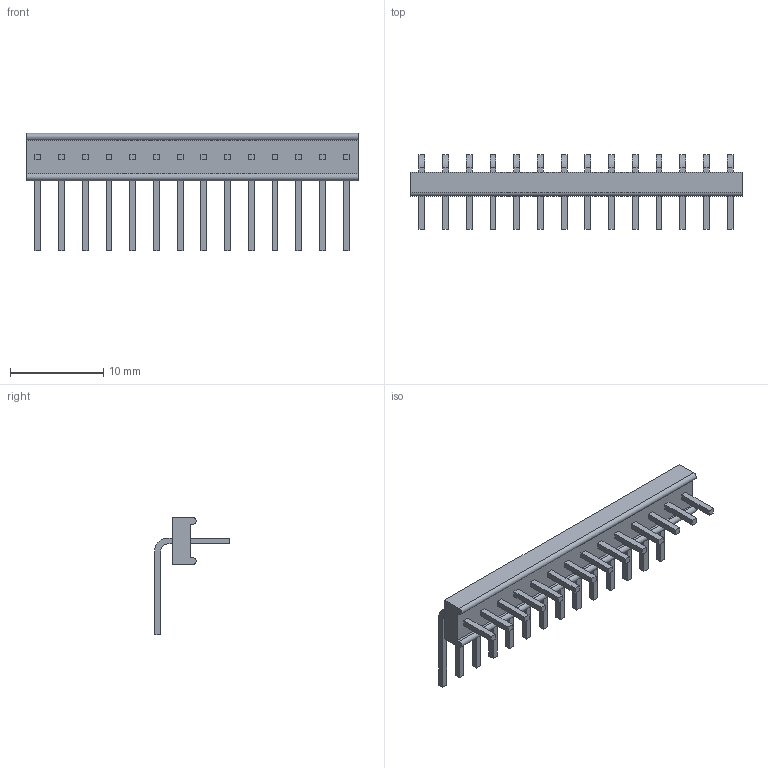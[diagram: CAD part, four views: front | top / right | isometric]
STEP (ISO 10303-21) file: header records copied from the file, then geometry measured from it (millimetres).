
FILE_DESCRIPTION((''),'2;1');
FILE_NAME('C-0640453-14-3','2007-09-02T',('workeradm'),('Tyco Electronics Corporation'),'PRO/ENGINEER BY PARAMETRIC TECHNOLOGY CORPORATION, 2005450','PRO/ENGINEER BY PARAMETRIC TECHNOLOGY CORPORATION, 2005450','');
FILE_SCHEMA(('CONFIG_CONTROL_DESIGN', 'GEOMETRIC_VALIDATION_PROPERTIES_MIM'));
Length unit declared in the file: millimetre
Products named in the file (1): C-0640453-14-3
Bounding box: 35.56 x 7.99 x 12.57 mm (x, y, z)
Volume: 460.7 mm3; surface area: 1130.2 mm2
Topology: 1 solids, 1 shells, 206 faces, 528 edges, 352 vertices
Faces by surface type: plane 176, cylinder 30
Entity records: 6301 total; most frequent: CARTESIAN_POINT 1087, ORIENTED_EDGE 1056, DIRECTION 1000, EDGE_CURVE 528, VECTOR 468, LINE 468, VERTEX_POINT 352, AXIS2_PLACEMENT_3D 266
